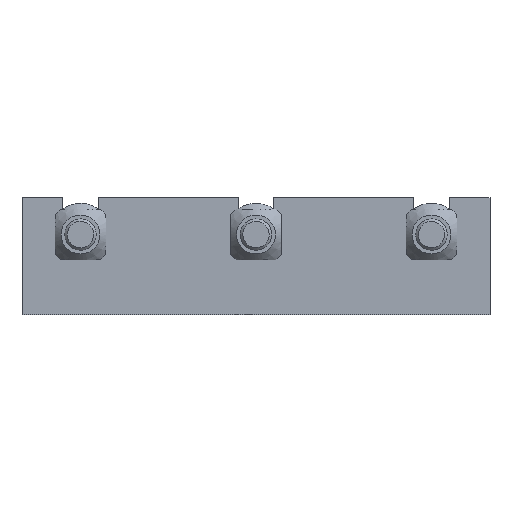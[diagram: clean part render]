
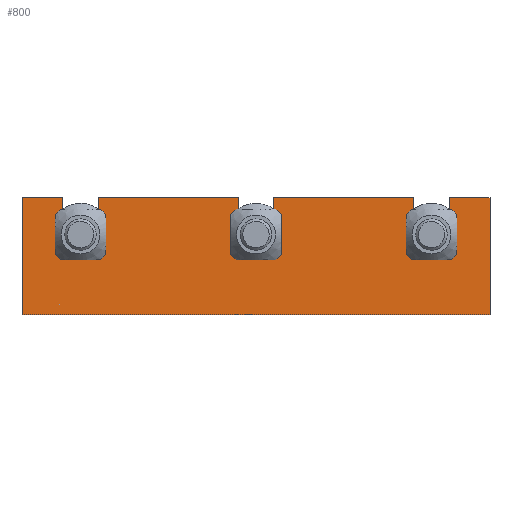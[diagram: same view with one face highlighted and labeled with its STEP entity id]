
A CAD part, front view. The second image highlights one B-rep face of the part: STEP entity #800.
In plain terms, the highlighted planar face has unit normal (0, -1, 0) as drawn and (0, 1, 0) by its records, which use the part's own axes.
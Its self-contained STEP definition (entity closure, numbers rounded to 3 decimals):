
#344=CARTESIAN_POINT('',(19.5,0.,20.5));
#345=VERTEX_POINT('',#344);
#352=CARTESIAN_POINT('',(10.5,0.,20.5));
#353=VERTEX_POINT('',#352);
#354=CARTESIAN_POINT('',(15.0,0.,20.5));
#355=DIRECTION('',(0.0,-1.0,0.0));
#356=DIRECTION('',(1.0,0.0,0.0));
#357=AXIS2_PLACEMENT_3D('',#354,#355,#356);
#358=CIRCLE('',#357,4.5);
#359=EDGE_CURVE('',#353,#345,#358,.T.);
#384=CARTESIAN_POINT('',(19.5,0.,30.0));
#385=VERTEX_POINT('',#384);
#392=CARTESIAN_POINT('',(19.5,0.,20.5));
#393=DIRECTION('',(0.0,0.0,1.0));
#394=VECTOR('',#393,9.5);
#395=LINE('',#392,#394);
#396=EDGE_CURVE('',#345,#385,#395,.T.);
#408=CARTESIAN_POINT('',(64.5,0.,20.5));
#409=VERTEX_POINT('',#408);
#416=CARTESIAN_POINT('',(55.5,0.,20.5));
#417=VERTEX_POINT('',#416);
#418=CARTESIAN_POINT('',(60.0,0.,20.5));
#419=DIRECTION('',(0.0,-1.0,0.0));
#420=DIRECTION('',(1.0,0.0,0.0));
#421=AXIS2_PLACEMENT_3D('',#418,#419,#420);
#422=CIRCLE('',#421,4.5);
#423=EDGE_CURVE('',#417,#409,#422,.T.);
#448=CARTESIAN_POINT('',(64.5,0.,30.0));
#449=VERTEX_POINT('',#448);
#456=CARTESIAN_POINT('',(64.5,0.,20.5));
#457=DIRECTION('',(0.0,0.0,1.0));
#458=VECTOR('',#457,9.5);
#459=LINE('',#456,#458);
#460=EDGE_CURVE('',#409,#449,#459,.T.);
#472=CARTESIAN_POINT('',(109.5,0.,20.5));
#473=VERTEX_POINT('',#472);
#480=CARTESIAN_POINT('',(100.5,0.,20.5));
#481=VERTEX_POINT('',#480);
#482=CARTESIAN_POINT('',(105.0,0.,20.5));
#483=DIRECTION('',(0.0,-1.0,0.0));
#484=DIRECTION('',(1.0,0.0,0.0));
#485=AXIS2_PLACEMENT_3D('',#482,#483,#484);
#486=CIRCLE('',#485,4.5);
#487=EDGE_CURVE('',#481,#473,#486,.T.);
#512=CARTESIAN_POINT('',(109.5,0.,30.0));
#513=VERTEX_POINT('',#512);
#520=CARTESIAN_POINT('',(109.5,0.,20.5));
#521=DIRECTION('',(0.0,0.0,1.0));
#522=VECTOR('',#521,9.5);
#523=LINE('',#520,#522);
#524=EDGE_CURVE('',#473,#513,#523,.T.);
#537=CARTESIAN_POINT('',(100.5,0.,30.0));
#538=VERTEX_POINT('',#537);
#539=CARTESIAN_POINT('',(100.5,0.,30.0));
#540=DIRECTION('',(0.0,0.0,-1.0));
#541=VECTOR('',#540,9.5);
#542=LINE('',#539,#541);
#543=EDGE_CURVE('',#538,#481,#542,.T.);
#649=CARTESIAN_POINT('',(64.5,0.,30.0));
#650=DIRECTION('',(1.0,0.0,0.0));
#651=VECTOR('',#650,36.0);
#652=LINE('',#649,#651);
#653=EDGE_CURVE('',#449,#538,#652,.T.);
#667=CARTESIAN_POINT('',(55.5,0.,30.0));
#668=VERTEX_POINT('',#667);
#669=CARTESIAN_POINT('',(55.5,0.,30.0));
#670=DIRECTION('',(0.0,0.0,-1.0));
#671=VECTOR('',#670,9.5);
#672=LINE('',#669,#671);
#673=EDGE_CURVE('',#668,#417,#672,.T.);
#691=CARTESIAN_POINT('',(19.5,0.,30.0));
#692=DIRECTION('',(1.0,0.0,0.0));
#693=VECTOR('',#692,36.);
#694=LINE('',#691,#693);
#695=EDGE_CURVE('',#385,#668,#694,.T.);
#709=CARTESIAN_POINT('',(10.5,0.,30.0));
#710=VERTEX_POINT('',#709);
#711=CARTESIAN_POINT('',(10.5,0.,30.0));
#712=DIRECTION('',(0.0,0.0,-1.0));
#713=VECTOR('',#712,9.5);
#714=LINE('',#711,#713);
#715=EDGE_CURVE('',#710,#353,#714,.T.);
#733=CARTESIAN_POINT('',(0.,0.,30.0));
#734=VERTEX_POINT('',#733);
#735=CARTESIAN_POINT('',(0.0,0.,30.0));
#736=DIRECTION('',(1.0,0.0,0.0));
#737=VECTOR('',#736,10.5);
#738=LINE('',#735,#737);
#739=EDGE_CURVE('',#734,#710,#738,.T.);
#751=CARTESIAN_POINT('',(60.0,0.,15.0));
#752=DIRECTION('',(0.0,-1.0,0.0));
#753=DIRECTION('',(1.0,0.0,0.0));
#754=AXIS2_PLACEMENT_3D('',#751,#752,#753);
#755=PLANE('',#754);
#756=ORIENTED_EDGE('',*,*,#543,.T.);
#757=ORIENTED_EDGE('',*,*,#487,.T.);
#758=ORIENTED_EDGE('',*,*,#524,.T.);
#759=CARTESIAN_POINT('',(120.0,0.,30.0));
#760=VERTEX_POINT('',#759);
#761=CARTESIAN_POINT('',(109.5,0.,30.0));
#762=DIRECTION('',(1.0,0.0,0.0));
#763=VECTOR('',#762,10.5);
#764=LINE('',#761,#763);
#765=EDGE_CURVE('',#513,#760,#764,.T.);
#766=ORIENTED_EDGE('',*,*,#765,.T.);
#767=CARTESIAN_POINT('',(120.0,0.,0.0));
#768=VERTEX_POINT('',#767);
#769=CARTESIAN_POINT('',(120.0,0.,30.0));
#770=DIRECTION('',(0.0,0.0,-1.0));
#771=VECTOR('',#770,30.0);
#772=LINE('',#769,#771);
#773=EDGE_CURVE('',#760,#768,#772,.T.);
#774=ORIENTED_EDGE('',*,*,#773,.T.);
#775=CARTESIAN_POINT('',(0.0,0.0,0.0));
#776=VERTEX_POINT('',#775);
#777=CARTESIAN_POINT('',(120.0,0.,0.0));
#778=DIRECTION('',(-1.0,0.0,0.0));
#779=VECTOR('',#778,120.0);
#780=LINE('',#777,#779);
#781=EDGE_CURVE('',#768,#776,#780,.T.);
#782=ORIENTED_EDGE('',*,*,#781,.T.);
#783=CARTESIAN_POINT('',(0.0,0.0,0.0));
#784=DIRECTION('',(0.0,0.0,1.0));
#785=VECTOR('',#784,30.0);
#786=LINE('',#783,#785);
#787=EDGE_CURVE('',#776,#734,#786,.T.);
#788=ORIENTED_EDGE('',*,*,#787,.T.);
#789=ORIENTED_EDGE('',*,*,#739,.T.);
#790=ORIENTED_EDGE('',*,*,#715,.T.);
#791=ORIENTED_EDGE('',*,*,#359,.T.);
#792=ORIENTED_EDGE('',*,*,#396,.T.);
#793=ORIENTED_EDGE('',*,*,#695,.T.);
#794=ORIENTED_EDGE('',*,*,#673,.T.);
#795=ORIENTED_EDGE('',*,*,#423,.T.);
#796=ORIENTED_EDGE('',*,*,#460,.T.);
#797=ORIENTED_EDGE('',*,*,#653,.T.);
#798=EDGE_LOOP('',(#756,#757,#758,#766,#774,#782,#788,#789,#790,#791,#792,#793,#794,#795,#796,#797));
#799=FACE_OUTER_BOUND('',#798,.T.);
#800=ADVANCED_FACE('',(#799),#755,.F.);
